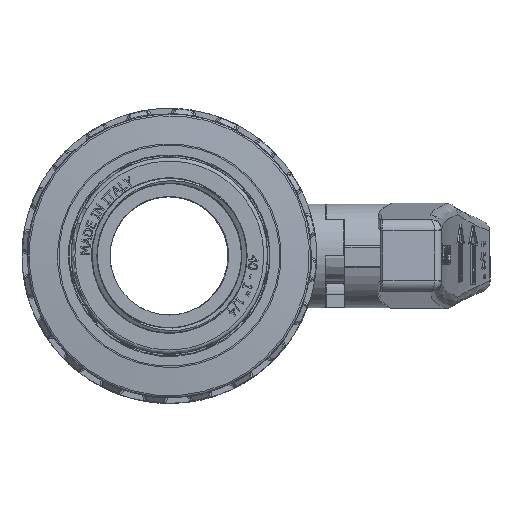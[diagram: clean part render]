
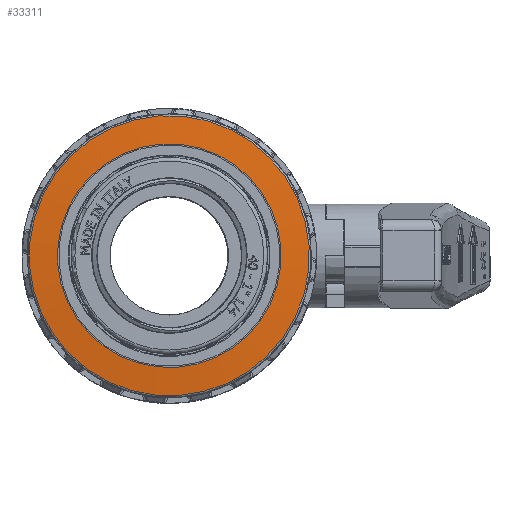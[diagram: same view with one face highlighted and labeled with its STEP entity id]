
A CAD part, top view. The second image highlights one B-rep face of the part: STEP entity #33311.
In plain terms, the highlighted conical face has half-angle 85 degrees and reference radius 34.125 mm.
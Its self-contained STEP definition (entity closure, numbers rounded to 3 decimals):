
#93=CONICAL_SURFACE('',#36076,34.125,1.484);
#813=FACE_BOUND('',#7198,.T.);
#1719=CIRCLE('',#36075,30.174);
#1720=CIRCLE('',#36077,37.794);
#5080=FACE_OUTER_BOUND('',#7197,.T.);
#7197=EDGE_LOOP('',(#29206));
#7198=EDGE_LOOP('',(#29207));
#15928=VERTEX_POINT('',#77146);
#15929=VERTEX_POINT('',#77149);
#20433=EDGE_CURVE('',#15928,#15928,#1719,.T.);
#20434=EDGE_CURVE('',#15929,#15929,#1720,.T.);
#29206=ORIENTED_EDGE('',*,*,#20434,.F.);
#29207=ORIENTED_EDGE('',*,*,#20433,.F.);
#33311=ADVANCED_FACE('',(#5080,#813),#93,.T.);
#36075=AXIS2_PLACEMENT_3D('',#77147,#43380,#43381);
#36076=AXIS2_PLACEMENT_3D('',#77148,#43382,#43383);
#36077=AXIS2_PLACEMENT_3D('',#77150,#43384,#43385);
#43380=DIRECTION('center_axis',(-1.,0.,0.));
#43381=DIRECTION('ref_axis',(0.,-1.,0.));
#43382=DIRECTION('center_axis',(1.,0.,0.));
#43383=DIRECTION('ref_axis',(0.,1.,0.));
#43384=DIRECTION('center_axis',(1.,0.,0.));
#43385=DIRECTION('ref_axis',(0.,-1.,0.));
#77146=CARTESIAN_POINT('',(0.015,30.174,0.));
#77147=CARTESIAN_POINT('Origin',(0.015,0.,0.));
#77148=CARTESIAN_POINT('Origin',(0.361,0.,0.));
#77149=CARTESIAN_POINT('',(0.682,37.794,0.));
#77150=CARTESIAN_POINT('Origin',(0.682,0.,0.));
